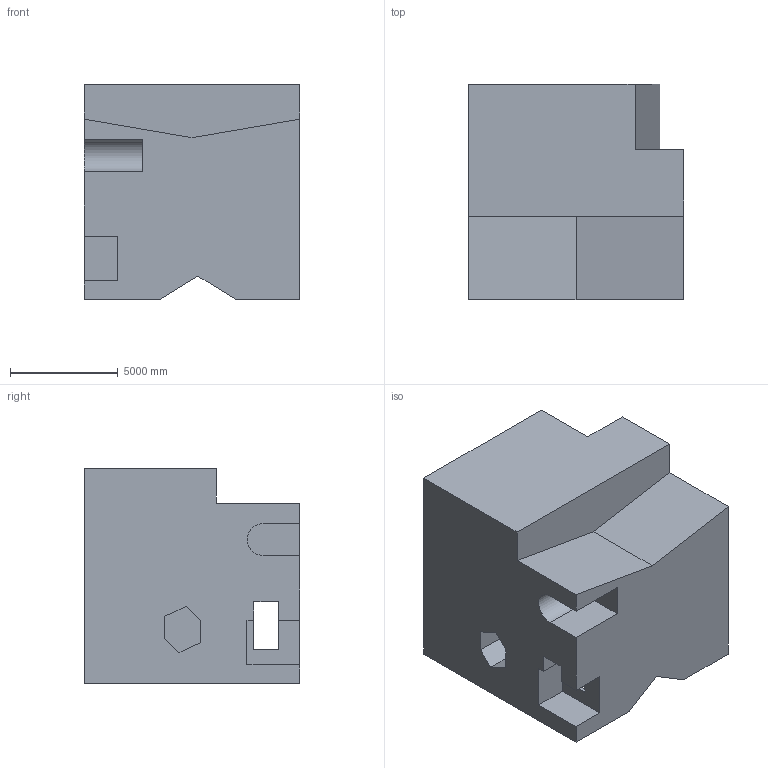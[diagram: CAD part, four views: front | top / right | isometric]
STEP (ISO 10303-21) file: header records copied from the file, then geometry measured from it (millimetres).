
FILE_DESCRIPTION (( 'STEP AP203' ), '1' );
FILE_NAME ('827.STEP', '2022-08-04T15:59:16', ( 'user' ), ( '' ), 'SwSTEP 2.0', 'SolidWorks 2021', '' );
FILE_SCHEMA (( 'CONFIG_CONTROL_DESIGN' ));
Length unit declared in the file: centimetre
Products named in the file (1): 827
Bounding box: 10000 x 10000 x 10000 mm (x, y, z)
Volume: 766561683437.1 mm3; surface area: 746308049.8 mm2
Topology: 1 solids, 1 shells, 47 faces, 135 edges, 90 vertices
Faces by surface type: plane 42, cylinder 5
Entity records: 1604 total; most frequent: CARTESIAN_POINT 273, ORIENTED_EDGE 270, DIRECTION 241, EDGE_CURVE 135, LINE 125, VECTOR 125, VERTEX_POINT 90, AXIS2_PLACEMENT_3D 58
